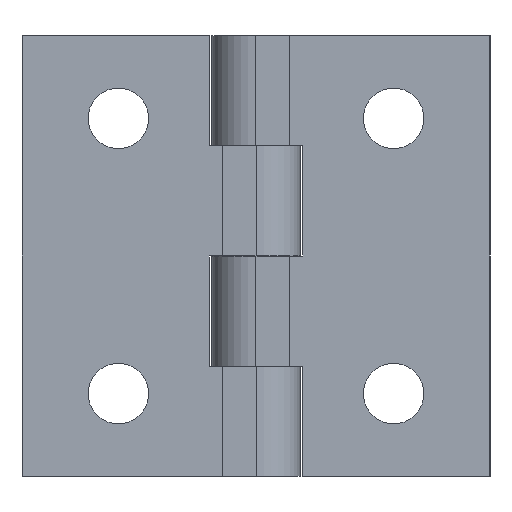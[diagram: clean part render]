
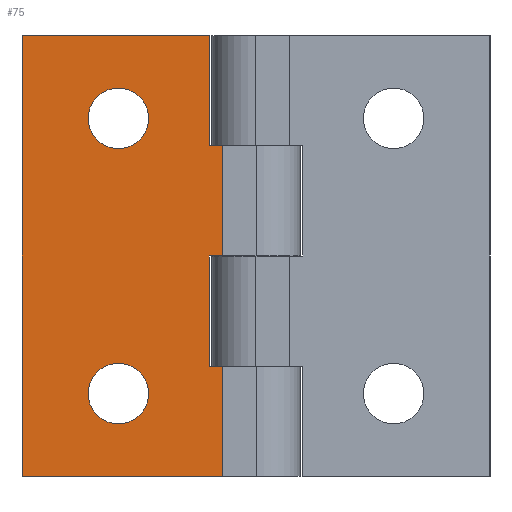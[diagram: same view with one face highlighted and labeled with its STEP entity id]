
A CAD part, front view. The second image highlights one B-rep face of the part: STEP entity #75.
In plain terms, the highlighted planar face has unit normal (0, -1, 0).
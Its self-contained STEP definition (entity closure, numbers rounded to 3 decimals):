
#11 = DIRECTION ( 'NONE',  ( 0., 0., -1. ) ) ;
#12 = VECTOR ( 'NONE', #1631, 1000. ) ;
#14 = CIRCLE ( 'NONE', #1539, 2.75 ) ;
#20 = CARTESIAN_POINT ( 'NONE',  ( -2.53, -2.923, -30. ) ) ;
#36 = ORIENTED_EDGE ( 'NONE', *, *, #555, .T. ) ;
#39 = AXIS2_PLACEMENT_3D ( 'NONE', #694, #672, #1577 ) ;
#75 = ADVANCED_FACE ( 'NONE', ( #1531, #1142, #1287 ), #363, .T. ) ;
#141 = ORIENTED_EDGE ( 'NONE', *, *, #979, .T. ) ;
#145 = LINE ( 'NONE', #572, #1212 ) ;
#150 = CARTESIAN_POINT ( 'NONE',  ( -2.53, -2.923, 0. ) ) ;
#194 = VERTEX_POINT ( 'NONE', #634 ) ;
#197 = EDGE_CURVE ( 'NONE', #1179, #1323, #1295, .T. ) ;
#203 = CIRCLE ( 'NONE', #1430, 2.75 ) ;
#204 = EDGE_CURVE ( 'NONE', #938, #1411, #203, .T. ) ;
#208 = EDGE_LOOP ( 'NONE', ( #1359, #294 ) ) ;
#209 = CARTESIAN_POINT ( 'NONE',  ( -12.03, -2.923, -19.75 ) ) ;
#215 = EDGE_CURVE ( 'NONE', #1411, #938, #1081, .T. ) ;
#232 = VECTOR ( 'NONE', #393, 1000. ) ;
#233 = DIRECTION ( 'NONE',  ( 0., 1., 0. ) ) ;
#250 = CARTESIAN_POINT ( 'NONE',  ( -3.78, -2.923, 0. ) ) ;
#255 = CARTESIAN_POINT ( 'NONE',  ( -3.78, -2.923, -10. ) ) ;
#275 = EDGE_CURVE ( 'NONE', #1020, #1110, #1352, .T. ) ;
#294 = ORIENTED_EDGE ( 'NONE', *, *, #215, .T. ) ;
#301 = VECTOR ( 'NONE', #1049, 1000. ) ;
#307 = EDGE_CURVE ( 'NONE', #1225, #1533, #145, .T. ) ;
#313 = ORIENTED_EDGE ( 'NONE', *, *, #1378, .F. ) ;
#338 = EDGE_LOOP ( 'NONE', ( #788, #810, #1050, #359, #820, #1520, #141, #415, #313, #839 ) ) ;
#340 = CARTESIAN_POINT ( 'NONE',  ( -12.03, -2.923, -0.25 ) ) ;
#346 = VECTOR ( 'NONE', #903, 1000. ) ;
#348 = CARTESIAN_POINT ( 'NONE',  ( -2.53, -2.923, 10. ) ) ;
#356 = CARTESIAN_POINT ( 'NONE',  ( -12.03, -2.923, 2.5 ) ) ;
#359 = ORIENTED_EDGE ( 'NONE', *, *, #998, .F. ) ;
#363 = PLANE ( 'NONE',  #1639 ) ;
#379 = CARTESIAN_POINT ( 'NONE',  ( -2.53, -2.923, -10. ) ) ;
#393 = DIRECTION ( 'NONE',  ( -1., 0., 0. ) ) ;
#415 = ORIENTED_EDGE ( 'NONE', *, *, #307, .T. ) ;
#469 = DIRECTION ( 'NONE',  ( -1., 0., 0. ) ) ;
#476 = CARTESIAN_POINT ( 'NONE',  ( -2.53, -2.923, 10. ) ) ;
#501 = DIRECTION ( 'NONE',  ( 0., -1., 0. ) ) ;
#511 = DIRECTION ( 'NONE',  ( 0., 0., -1. ) ) ;
#520 = CARTESIAN_POINT ( 'NONE',  ( -3.78, -2.923, -10. ) ) ;
#536 = CARTESIAN_POINT ( 'NONE',  ( -20.78, -2.923, 10. ) ) ;
#555 = EDGE_CURVE ( 'NONE', #1110, #1020, #14, .T. ) ;
#572 = CARTESIAN_POINT ( 'NONE',  ( -20.78, -2.923, 10. ) ) ;
#598 = LINE ( 'NONE', #1117, #12 ) ;
#600 = EDGE_CURVE ( 'NONE', #1681, #608, #777, .T. ) ;
#603 = VERTEX_POINT ( 'NONE', #20 ) ;
#608 = VERTEX_POINT ( 'NONE', #789 ) ;
#613 = AXIS2_PLACEMENT_3D ( 'NONE', #626, #935, #1453 ) ;
#626 = CARTESIAN_POINT ( 'NONE',  ( -12.03, -2.923, -22.5 ) ) ;
#634 = CARTESIAN_POINT ( 'NONE',  ( -3.78, -2.923, -20. ) ) ;
#651 = VECTOR ( 'NONE', #992, 1000. ) ;
#655 = CARTESIAN_POINT ( 'NONE',  ( -2.53, -2.923, 10. ) ) ;
#668 = VERTEX_POINT ( 'NONE', #150 ) ;
#672 = DIRECTION ( 'NONE',  ( 0., 1., 0. ) ) ;
#682 = VECTOR ( 'NONE', #1143, 1000. ) ;
#694 = CARTESIAN_POINT ( 'NONE',  ( -12.03, -2.923, 2.5 ) ) ;
#754 = DIRECTION ( 'NONE',  ( 0., 0., 1. ) ) ;
#762 = EDGE_CURVE ( 'NONE', #1323, #194, #1166, .T. ) ;
#775 = CARTESIAN_POINT ( 'NONE',  ( -12.03, -2.923, 5.25 ) ) ;
#777 = LINE ( 'NONE', #1688, #346 ) ;
#783 = CARTESIAN_POINT ( 'NONE',  ( -2.53, -2.923, -30. ) ) ;
#788 = ORIENTED_EDGE ( 'NONE', *, *, #1086, .F. ) ;
#789 = CARTESIAN_POINT ( 'NONE',  ( -3.78, -2.923, 0. ) ) ;
#810 = ORIENTED_EDGE ( 'NONE', *, *, #762, .F. ) ;
#820 = ORIENTED_EDGE ( 'NONE', *, *, #1240, .F. ) ;
#839 = ORIENTED_EDGE ( 'NONE', *, *, #1276, .F. ) ;
#852 = LINE ( 'NONE', #476, #651 ) ;
#853 = VERTEX_POINT ( 'NONE', #1089 ) ;
#903 = DIRECTION ( 'NONE',  ( 0., 0., -1. ) ) ;
#908 = CARTESIAN_POINT ( 'NONE',  ( -3.78, -2.923, -10. ) ) ;
#935 = DIRECTION ( 'NONE',  ( 0., 1., 0. ) ) ;
#938 = VERTEX_POINT ( 'NONE', #209 ) ;
#979 = EDGE_CURVE ( 'NONE', #1681, #1225, #1370, .T. ) ;
#992 = DIRECTION ( 'NONE',  ( 0., 0., -1. ) ) ;
#998 = EDGE_CURVE ( 'NONE', #668, #1179, #1521, .T. ) ;
#1020 = VERTEX_POINT ( 'NONE', #340 ) ;
#1045 = DIRECTION ( 'NONE',  ( 0., 0., -1. ) ) ;
#1049 = DIRECTION ( 'NONE',  ( 1., 0., 0. ) ) ;
#1050 = ORIENTED_EDGE ( 'NONE', *, *, #197, .F. ) ;
#1056 = LINE ( 'NONE', #783, #682 ) ;
#1081 = CIRCLE ( 'NONE', #613, 2.75 ) ;
#1086 = EDGE_CURVE ( 'NONE', #194, #853, #598, .T. ) ;
#1089 = CARTESIAN_POINT ( 'NONE',  ( -2.53, -2.923, -20. ) ) ;
#1102 = EDGE_LOOP ( 'NONE', ( #36, #1428 ) ) ;
#1110 = VERTEX_POINT ( 'NONE', #775 ) ;
#1112 = VECTOR ( 'NONE', #469, 1000. ) ;
#1117 = CARTESIAN_POINT ( 'NONE',  ( -3.78, -2.923, -20. ) ) ;
#1142 = FACE_BOUND ( 'NONE', #1102, .T. ) ;
#1143 = DIRECTION ( 'NONE',  ( -1., 0., 0. ) ) ;
#1166 = LINE ( 'NONE', #520, #1676 ) ;
#1179 = VERTEX_POINT ( 'NONE', #379 ) ;
#1212 = VECTOR ( 'NONE', #11, 1000. ) ;
#1225 = VERTEX_POINT ( 'NONE', #536 ) ;
#1240 = EDGE_CURVE ( 'NONE', #608, #668, #1687, .T. ) ;
#1242 = CARTESIAN_POINT ( 'NONE',  ( -3.78, -2.923, 10. ) ) ;
#1248 = DIRECTION ( 'NONE',  ( 0., 1., 0. ) ) ;
#1264 = DIRECTION ( 'NONE',  ( 0., 0., -1. ) ) ;
#1276 = EDGE_CURVE ( 'NONE', #853, #603, #852, .T. ) ;
#1279 = CARTESIAN_POINT ( 'NONE',  ( -12.03, -2.923, -25.25 ) ) ;
#1287 = FACE_BOUND ( 'NONE', #208, .T. ) ;
#1295 = LINE ( 'NONE', #255, #232 ) ;
#1323 = VERTEX_POINT ( 'NONE', #908 ) ;
#1324 = VECTOR ( 'NONE', #1264, 1000. ) ;
#1352 = CIRCLE ( 'NONE', #39, 2.75 ) ;
#1359 = ORIENTED_EDGE ( 'NONE', *, *, #204, .T. ) ;
#1370 = LINE ( 'NONE', #1644, #1112 ) ;
#1378 = EDGE_CURVE ( 'NONE', #603, #1533, #1056, .T. ) ;
#1396 = CARTESIAN_POINT ( 'NONE',  ( -12.03, -2.923, -22.5 ) ) ;
#1411 = VERTEX_POINT ( 'NONE', #1279 ) ;
#1428 = ORIENTED_EDGE ( 'NONE', *, *, #275, .T. ) ;
#1430 = AXIS2_PLACEMENT_3D ( 'NONE', #1396, #233, #754 ) ;
#1453 = DIRECTION ( 'NONE',  ( 0., 0., 1. ) ) ;
#1520 = ORIENTED_EDGE ( 'NONE', *, *, #600, .F. ) ;
#1521 = LINE ( 'NONE', #348, #1324 ) ;
#1531 = FACE_OUTER_BOUND ( 'NONE', #338, .T. ) ;
#1533 = VERTEX_POINT ( 'NONE', #1608 ) ;
#1539 = AXIS2_PLACEMENT_3D ( 'NONE', #356, #1248, #1645 ) ;
#1577 = DIRECTION ( 'NONE',  ( 0., 0., 1. ) ) ;
#1608 = CARTESIAN_POINT ( 'NONE',  ( -20.78, -2.923, -30. ) ) ;
#1631 = DIRECTION ( 'NONE',  ( 1., 0., 0. ) ) ;
#1639 = AXIS2_PLACEMENT_3D ( 'NONE', #655, #501, #511 ) ;
#1644 = CARTESIAN_POINT ( 'NONE',  ( -2.53, -2.923, 10. ) ) ;
#1645 = DIRECTION ( 'NONE',  ( 0., 0., 1. ) ) ;
#1676 = VECTOR ( 'NONE', #1045, 1000. ) ;
#1681 = VERTEX_POINT ( 'NONE', #1242 ) ;
#1687 = LINE ( 'NONE', #250, #301 ) ;
#1688 = CARTESIAN_POINT ( 'NONE',  ( -3.78, -2.923, 10. ) ) ;
